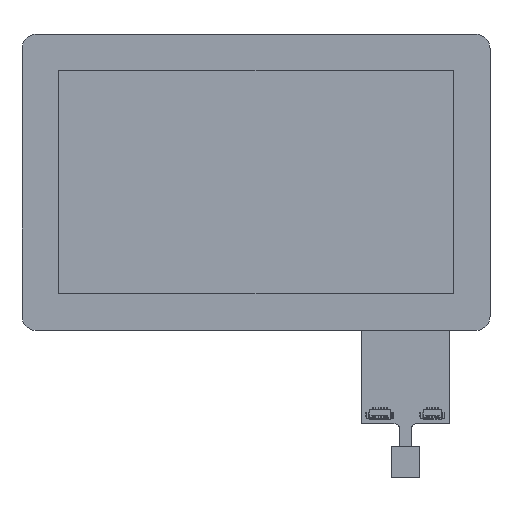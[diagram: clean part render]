
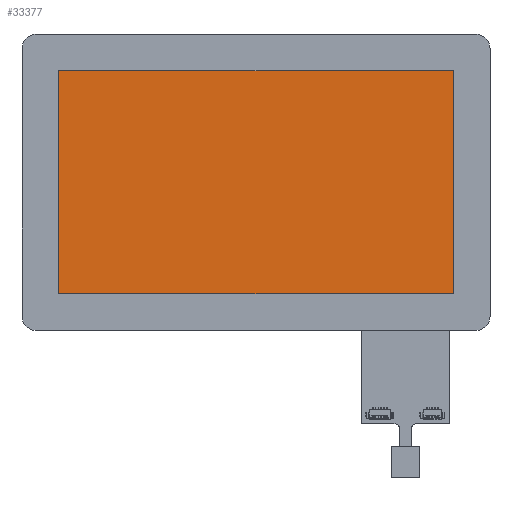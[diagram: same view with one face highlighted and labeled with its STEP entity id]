
A CAD part, top view. The second image highlights one B-rep face of the part: STEP entity #33377.
In plain terms, the highlighted planar face has unit normal (0, 0, 1).
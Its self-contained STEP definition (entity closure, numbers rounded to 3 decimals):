
#375 = ORIENTED_EDGE ( 'NONE', *, *, #68451, .T. ) ;
#681 = CARTESIAN_POINT ( 'NONE',  ( 0., 52.27, 9.6 ) ) ;
#2182 = FACE_OUTER_BOUND ( 'NONE', #47558, .T. ) ;
#2717 = VECTOR ( 'NONE', #31438, 1000. ) ;
#3210 = DIRECTION ( 'NONE',  ( 0., -1., 0. ) ) ;
#4788 = LINE ( 'NONE', #70044, #15538 ) ;
#5544 = CARTESIAN_POINT ( 'NONE',  ( 87.48, 52.27, 9.6 ) ) ;
#6109 = VERTEX_POINT ( 'NONE', #20184 ) ;
#12400 = ORIENTED_EDGE ( 'NONE', *, *, #19702, .T. ) ;
#15335 = VECTOR ( 'NONE', #44309, 1000. ) ;
#15538 = VECTOR ( 'NONE', #64709, 1000. ) ;
#18517 = DIRECTION ( 'NONE',  ( 1., 0., 0. ) ) ;
#19702 = EDGE_CURVE ( 'NONE', #6109, #19829, #62443, .T. ) ;
#19829 = VERTEX_POINT ( 'NONE', #68812 ) ;
#20184 = CARTESIAN_POINT ( 'NONE',  ( -90.54, 52.27, 9.6 ) ) ;
#24194 = CARTESIAN_POINT ( 'NONE',  ( 0., 0., 9.6 ) ) ;
#27787 = AXIS2_PLACEMENT_3D ( 'NONE', #24194, #67100, #18517 ) ;
#31438 = DIRECTION ( 'NONE',  ( 0., 1., 0. ) ) ;
#33377 = ADVANCED_FACE ( 'NONE', ( #2182 ), #45817, .T. ) ;
#35491 = CARTESIAN_POINT ( 'NONE',  ( -90.54, 0., 9.6 ) ) ;
#37218 = EDGE_CURVE ( 'NONE', #19829, #39417, #4788, .T. ) ;
#39417 = VERTEX_POINT ( 'NONE', #40425 ) ;
#40425 = CARTESIAN_POINT ( 'NONE',  ( 87.48, -48.31, 9.6 ) ) ;
#42427 = LINE ( 'NONE', #58398, #2717 ) ;
#44309 = DIRECTION ( 'NONE',  ( -1., 0., 0. ) ) ;
#45817 = PLANE ( 'NONE',  #27787 ) ;
#47558 = EDGE_LOOP ( 'NONE', ( #54539, #47790, #375, #12400 ) ) ;
#47790 = ORIENTED_EDGE ( 'NONE', *, *, #66602, .T. ) ;
#54539 = ORIENTED_EDGE ( 'NONE', *, *, #37218, .T. ) ;
#58398 = CARTESIAN_POINT ( 'NONE',  ( 87.48, 0., 9.6 ) ) ;
#58712 = VERTEX_POINT ( 'NONE', #5544 ) ;
#60638 = LINE ( 'NONE', #681, #15335 ) ;
#62443 = LINE ( 'NONE', #35491, #62717 ) ;
#62717 = VECTOR ( 'NONE', #3210, 1000. ) ;
#64709 = DIRECTION ( 'NONE',  ( 1., 0., 0. ) ) ;
#66602 = EDGE_CURVE ( 'NONE', #39417, #58712, #42427, .T. ) ;
#67100 = DIRECTION ( 'NONE',  ( 0., 0., 1. ) ) ;
#68451 = EDGE_CURVE ( 'NONE', #58712, #6109, #60638, .T. ) ;
#68812 = CARTESIAN_POINT ( 'NONE',  ( -90.54, -48.31, 9.6 ) ) ;
#70044 = CARTESIAN_POINT ( 'NONE',  ( 0., -48.31, 9.6 ) ) ;
